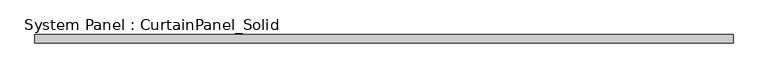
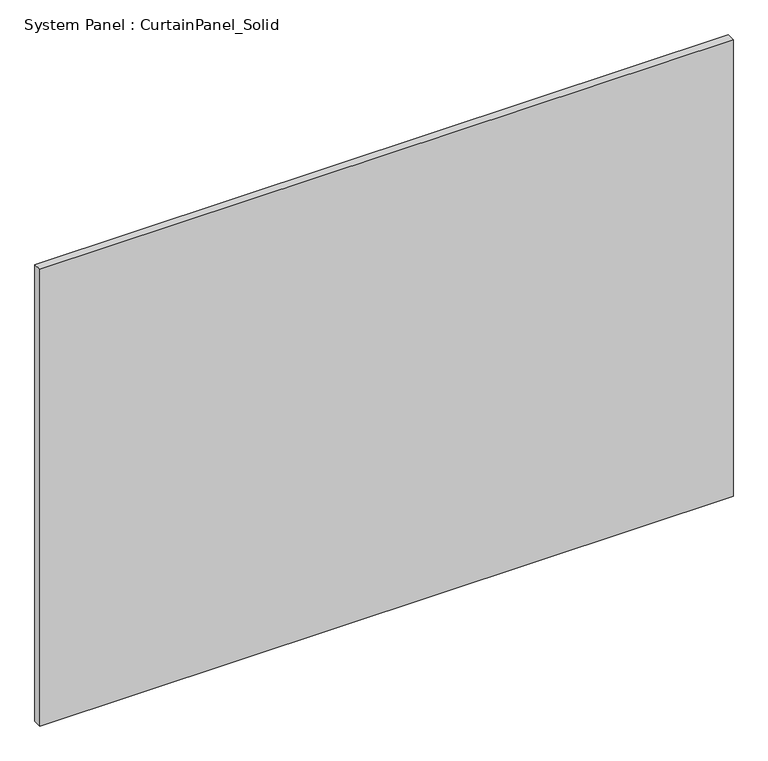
"""IFC4 building model written with IfcOpenShell, lengths in millimetres: plate geometry, System Panel : CurtainPanel_Solid."""

from ifc_helpers import new_model, si_unit, origin, origin_with_axes, place, context, project, spatial, polyline, outline, extrude, source, transform, mapped, element, save


def system_panel_curtainpanel_solid_ebe6707a(model_context):
    return source(origin(), model_context, "Body", "SweptSolid", [
        extrude(outline(polyline([(1041.0000001, -12.5), (-1041.0000001, -12.5), (-1041.0000001, 12.5), (1041.0000001, 12.5), (1041.0000001, -12.5)])), origin_with_axes(), (0.0, 0.0, 1.0), 1450.0),
    ])


if __name__ == "__main__":
    model = new_model("IFC4")
    model_context = context("Model", 3, world=origin())
    ifc_project = project(units=[si_unit("LENGTHUNIT", "METRE", prefix="MILLI")], contexts=[model_context])
    site = spatial("IfcSite", under=ifc_project)
    building = spatial("IfcBuilding", under=site)
    placement = place(None, origin())
    system_panel_curtainpanel_solid_shape = system_panel_curtainpanel_solid_ebe6707a(model_context)
    element("IfcPlate", 1, ObjectType="System Panel : CurtainPanel_Solid", at=placement, inside=building, context=model_context, shape_type="MappedRepresentation", body=[
        mapped(system_panel_curtainpanel_solid_shape, transform((0.0, 0.0, 0.0), x_axis=(1.0, 0.0, 0.0), y_axis=(0.0, 1.0, 0.0), z_axis=(0.0, 0.0, 1.0))),
    ])
    save(model, "model.ifc")
